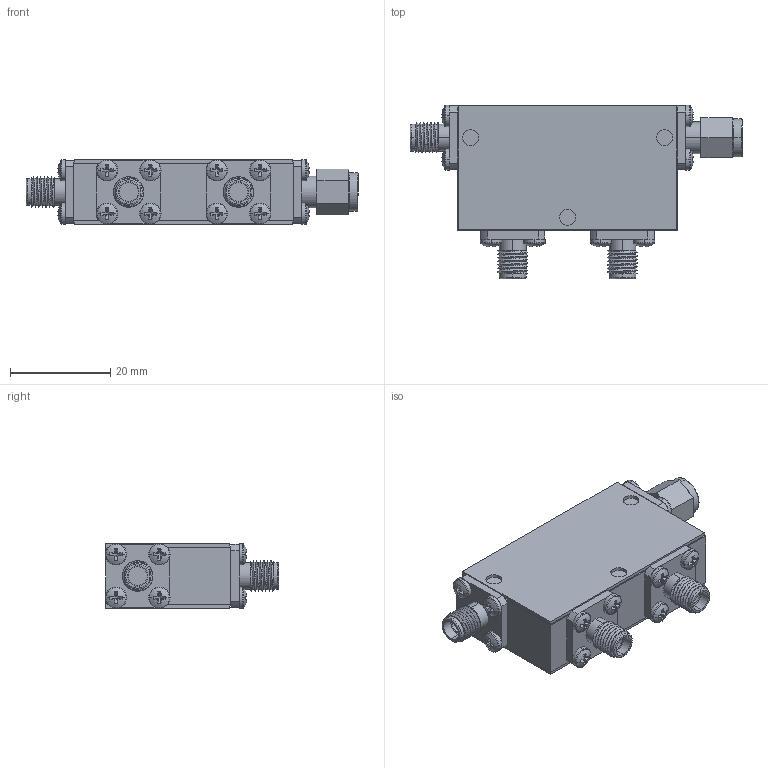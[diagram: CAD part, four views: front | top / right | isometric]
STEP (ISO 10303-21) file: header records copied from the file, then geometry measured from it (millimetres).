
FILE_DESCRIPTION (( 'STEP AP214' ), '1' );
FILE_NAME ('Package 19-2 Circ FMFF, Cryo Unshielded.STEP', '2023-12-20T23:06:04', ( '' ), ( '' ), 'SwSTEP 2.0', 'SolidWorks 2016', '' );
FILE_SCHEMA (( 'AUTOMOTIVE_DESIGN' ));
Length unit declared in the file: inch
Products named in the file (6): Delta SMA-Female 0.500 flange Threaded; Package Size 19; pan cross head_ai_CR-PHMS 0.086-56x0.125x0.125-N; Delta SMA-Male; WR053; Package 19-2 Circ FMFF, Cryo Unshielded
Assembly tree (22 placements, depth 2):
  Package 19-2 Circ FMFF, Cryo Unshielded
    Delta SMA-Female 0.500 flange Threaded  x3
    pan cross head_ai_CR-PHMS 0.086-56x0.125x0.125-N  x16
    Package Size 19
    WR053
    Delta SMA-Male
Bounding box: 66.09 x 34.51 x 12.88 mm (x, y, z)
Volume: 15558.4 mm3; surface area: 12988.1 mm2
Topology: 22 solids, 22 shells, 576 faces, 1319 edges, 815 vertices
Faces by surface type: plane 313, cylinder 178, torus 44, sphere 32, bspline 9
Entity records: 5809 total; most frequent: CARTESIAN_POINT 1539, DIRECTION 915, ORIENTED_EDGE 758, EDGE_CURVE 379, AXIS2_PLACEMENT_3D 369, VERTEX_POINT 243, EDGE_LOOP 208, CIRCLE 194
